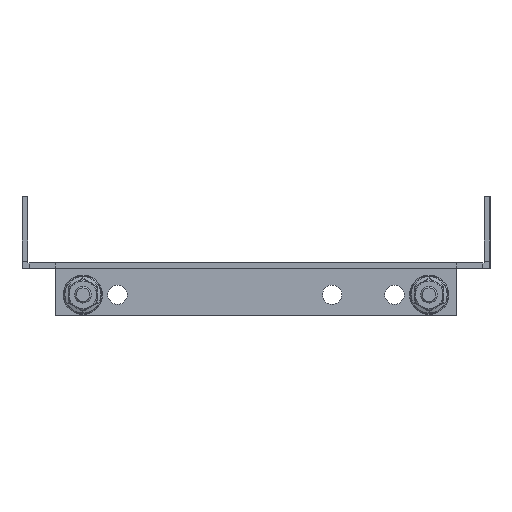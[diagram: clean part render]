
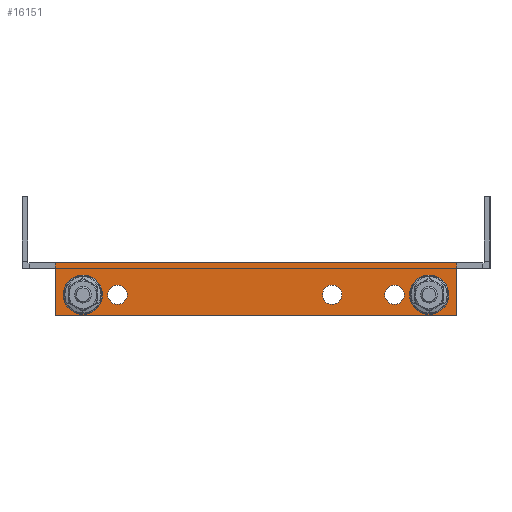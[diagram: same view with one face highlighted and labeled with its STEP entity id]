
A CAD part, left-side view. The second image highlights one B-rep face of the part: STEP entity #16151.
In plain terms, the highlighted planar face has unit normal (-1, 0, 0).
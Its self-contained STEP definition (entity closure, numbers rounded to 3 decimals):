
#7172 = VERTEX_POINT('',#7173);
#7173 = CARTESIAN_POINT('',(-250.,72.5,2.));
#7179 = EDGE_CURVE('',#7180,#7172,#7182,.T.);
#7180 = VERTEX_POINT('',#7181);
#7181 = CARTESIAN_POINT('',(-250.,-72.5,2.));
#7182 = LINE('',#7183,#7184);
#7183 = CARTESIAN_POINT('',(-250.,-82.5,2.));
#7184 = VECTOR('',#7185,1.);
#7185 = DIRECTION('',(-0.,1.,-0.));
#16030 = VERTEX_POINT('',#16031);
#16031 = CARTESIAN_POINT('',(-250.,-72.5,-0.6));
#16046 = EDGE_CURVE('',#16030,#7180,#16047,.T.);
#16047 = LINE('',#16048,#16049);
#16048 = CARTESIAN_POINT('',(-250.,-72.5,-0.6));
#16049 = VECTOR('',#16050,1.);
#16050 = DIRECTION('',(0.,-0.,1.));
#16070 = VERTEX_POINT('',#16071);
#16071 = CARTESIAN_POINT('',(-250.,72.5,-0.6));
#16077 = EDGE_CURVE('',#16070,#7172,#16078,.T.);
#16078 = LINE('',#16079,#16080);
#16079 = CARTESIAN_POINT('',(-250.,72.5,0.));
#16080 = VECTOR('',#16081,1.);
#16081 = DIRECTION('',(0.,0.,1.));
#16093 = EDGE_CURVE('',#16094,#16070,#16096,.T.);
#16094 = VERTEX_POINT('',#16095);
#16095 = CARTESIAN_POINT('',(-250.,72.5,-17.));
#16096 = LINE('',#16097,#16098);
#16097 = CARTESIAN_POINT('',(-250.,72.5,0.));
#16098 = VECTOR('',#16099,1.);
#16099 = DIRECTION('',(0.,-0.,1.));
#16133 = EDGE_CURVE('',#16030,#16134,#16136,.T.);
#16134 = VERTEX_POINT('',#16135);
#16135 = CARTESIAN_POINT('',(-250.,-72.5,-17.));
#16136 = LINE('',#16137,#16138);
#16137 = CARTESIAN_POINT('',(-250.,-72.5,-17.));
#16138 = VECTOR('',#16139,1.);
#16139 = DIRECTION('',(0.,-0.,-1.));
#16151 = ADVANCED_FACE('',(#16152,#16163,#16183,#16203,#16214,#16225),
  #16238,.T.);
#16152 = FACE_BOUND('',#16153,.T.);
#16153 = EDGE_LOOP('',(#16154));
#16154 = ORIENTED_EDGE('',*,*,#16155,.T.);
#16155 = EDGE_CURVE('',#16156,#16156,#16158,.T.);
#16156 = VERTEX_POINT('',#16157);
#16157 = CARTESIAN_POINT('',(-250.,-27.5,-13.));
#16158 = CIRCLE('',#16159,3.5);
#16159 = AXIS2_PLACEMENT_3D('',#16160,#16161,#16162);
#16160 = CARTESIAN_POINT('',(-250.,-27.5,-9.5));
#16161 = DIRECTION('',(1.,0.,0.));
#16162 = DIRECTION('',(0.,-0.,-1.));
#16163 = FACE_BOUND('',#16164,.T.);
#16164 = EDGE_LOOP('',(#16165,#16176));
#16165 = ORIENTED_EDGE('',*,*,#16166,.F.);
#16166 = EDGE_CURVE('',#16167,#16169,#16171,.T.);
#16167 = VERTEX_POINT('',#16168);
#16168 = CARTESIAN_POINT('',(-250.,-62.5,-13.));
#16169 = VERTEX_POINT('',#16170);
#16170 = CARTESIAN_POINT('',(-250.,-62.5,-6.));
#16171 = CIRCLE('',#16172,3.5);
#16172 = AXIS2_PLACEMENT_3D('',#16173,#16174,#16175);
#16173 = CARTESIAN_POINT('',(-250.,-62.5,-9.5));
#16174 = DIRECTION('',(-1.,0.,0.));
#16175 = DIRECTION('',(0.,0.,-1.));
#16176 = ORIENTED_EDGE('',*,*,#16177,.F.);
#16177 = EDGE_CURVE('',#16169,#16167,#16178,.T.);
#16178 = CIRCLE('',#16179,3.5);
#16179 = AXIS2_PLACEMENT_3D('',#16180,#16181,#16182);
#16180 = CARTESIAN_POINT('',(-250.,-62.5,-9.5));
#16181 = DIRECTION('',(-1.,0.,0.));
#16182 = DIRECTION('',(0.,0.,-1.));
#16183 = FACE_BOUND('',#16184,.T.);
#16184 = EDGE_LOOP('',(#16185,#16196));
#16185 = ORIENTED_EDGE('',*,*,#16186,.F.);
#16186 = EDGE_CURVE('',#16187,#16189,#16191,.T.);
#16187 = VERTEX_POINT('',#16188);
#16188 = CARTESIAN_POINT('',(-250.,-50.,-13.));
#16189 = VERTEX_POINT('',#16190);
#16190 = CARTESIAN_POINT('',(-250.,-50.,-6.));
#16191 = CIRCLE('',#16192,3.5);
#16192 = AXIS2_PLACEMENT_3D('',#16193,#16194,#16195);
#16193 = CARTESIAN_POINT('',(-250.,-50.,-9.5));
#16194 = DIRECTION('',(-1.,0.,0.));
#16195 = DIRECTION('',(0.,0.,-1.));
#16196 = ORIENTED_EDGE('',*,*,#16197,.F.);
#16197 = EDGE_CURVE('',#16189,#16187,#16198,.T.);
#16198 = CIRCLE('',#16199,3.5);
#16199 = AXIS2_PLACEMENT_3D('',#16200,#16201,#16202);
#16200 = CARTESIAN_POINT('',(-250.,-50.,-9.5));
#16201 = DIRECTION('',(-1.,0.,0.));
#16202 = DIRECTION('',(0.,0.,-1.));
#16203 = FACE_BOUND('',#16204,.T.);
#16204 = EDGE_LOOP('',(#16205));
#16205 = ORIENTED_EDGE('',*,*,#16206,.F.);
#16206 = EDGE_CURVE('',#16207,#16207,#16209,.T.);
#16207 = VERTEX_POINT('',#16208);
#16208 = CARTESIAN_POINT('',(-250.,50.,-6.));
#16209 = CIRCLE('',#16210,3.5);
#16210 = AXIS2_PLACEMENT_3D('',#16211,#16212,#16213);
#16211 = CARTESIAN_POINT('',(-250.,50.,-9.5));
#16212 = DIRECTION('',(-1.,0.,0.));
#16213 = DIRECTION('',(0.,0.,1.));
#16214 = FACE_BOUND('',#16215,.T.);
#16215 = EDGE_LOOP('',(#16216));
#16216 = ORIENTED_EDGE('',*,*,#16217,.F.);
#16217 = EDGE_CURVE('',#16218,#16218,#16220,.T.);
#16218 = VERTEX_POINT('',#16219);
#16219 = CARTESIAN_POINT('',(-250.,62.5,-6.));
#16220 = CIRCLE('',#16221,3.5);
#16221 = AXIS2_PLACEMENT_3D('',#16222,#16223,#16224);
#16222 = CARTESIAN_POINT('',(-250.,62.5,-9.5));
#16223 = DIRECTION('',(-1.,0.,0.));
#16224 = DIRECTION('',(0.,0.,1.));
#16225 = FACE_BOUND('',#16226,.T.);
#16226 = EDGE_LOOP('',(#16227,#16228,#16229,#16230,#16231,#16232));
#16227 = ORIENTED_EDGE('',*,*,#16133,.F.);
#16228 = ORIENTED_EDGE('',*,*,#16046,.T.);
#16229 = ORIENTED_EDGE('',*,*,#7179,.T.);
#16230 = ORIENTED_EDGE('',*,*,#16077,.F.);
#16231 = ORIENTED_EDGE('',*,*,#16093,.F.);
#16232 = ORIENTED_EDGE('',*,*,#16233,.F.);
#16233 = EDGE_CURVE('',#16134,#16094,#16234,.T.);
#16234 = LINE('',#16235,#16236);
#16235 = CARTESIAN_POINT('',(-250.,72.5,-17.));
#16236 = VECTOR('',#16237,1.);
#16237 = DIRECTION('',(-0.,1.,-0.));
#16238 = PLANE('',#16239);
#16239 = AXIS2_PLACEMENT_3D('',#16240,#16241,#16242);
#16240 = CARTESIAN_POINT('',(-250.,72.5,0.));
#16241 = DIRECTION('',(-1.,0.,0.));
#16242 = DIRECTION('',(0.,0.,1.));
